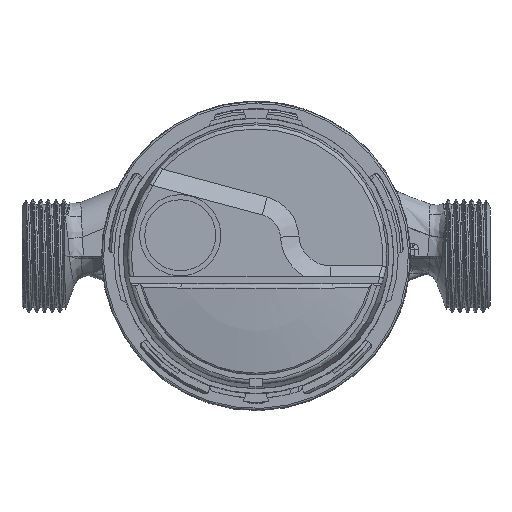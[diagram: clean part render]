
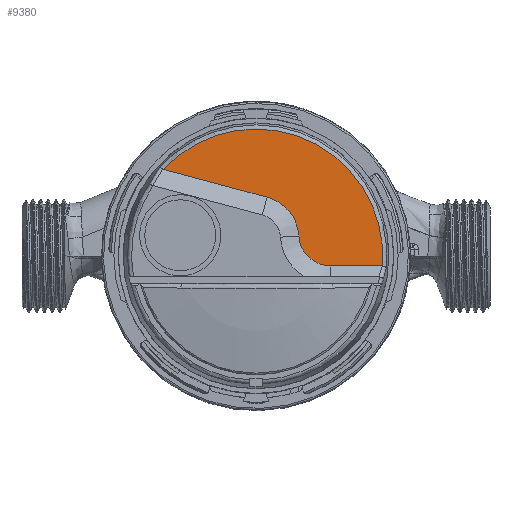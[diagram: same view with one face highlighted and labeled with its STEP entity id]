
A CAD part, top view. The second image highlights one B-rep face of the part: STEP entity #9380.
In plain terms, the highlighted planar face has unit normal (0, 0, 1) as drawn and (0, 1, 0) by its records, which use the part's own axes.
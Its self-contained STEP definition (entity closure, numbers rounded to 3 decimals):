
#308 = CARTESIAN_POINT ( 'NONE',  ( 0., 25., -4. ) ) ;
#2348 = CARTESIAN_POINT ( 'NONE',  ( -21.784, 25., -20.293 ) ) ;
#3407 = AXIS2_PLACEMENT_3D ( 'NONE', #308, #124444, #47061 ) ;
#5114 = EDGE_CURVE ( 'NONE', #6909, #118677, #70582, .T. ) ;
#6909 = VERTEX_POINT ( 'NONE', #7999 ) ;
#7999 = CARTESIAN_POINT ( 'NONE',  ( 17.566, 25., 2.4 ) ) ;
#9380 = ADVANCED_FACE ( 'NONE', ( #30285 ), #51310, .T. ) ;
#10182 = B_SPLINE_CURVE_WITH_KNOTS ( 'NONE', 3,
 ( #91334, #31911, #71514, #121975 ),
 .UNSPECIFIED., .F., .F.,
 ( 4, 4 ),
 ( 0., 0. ),
 .UNSPECIFIED. ) ;
#12880 = CARTESIAN_POINT ( 'NONE',  ( 17.566, 25., -5.1 ) ) ;
#13515 = DIRECTION ( 'NONE',  ( 0., 1., 0. ) ) ;
#15255 = EDGE_LOOP ( 'NONE', ( #68616, #66811, #76982, #102354, #64935, #87756 ) ) ;
#19917 = EDGE_CURVE ( 'NONE', #94900, #6909, #98541, .T. ) ;
#30285 = FACE_OUTER_BOUND ( 'NONE', #15255, .T. ) ;
#30359 = EDGE_CURVE ( 'NONE', #118469, #45896, #99273, .T. ) ;
#31167 = VECTOR ( 'NONE', #96817, 1000. ) ;
#31535 = DIRECTION ( 'NONE',  ( 1., 0., 0. ) ) ;
#31911 = CARTESIAN_POINT ( 'NONE',  ( 29.626, 25., 2.4 ) ) ;
#34255 = EDGE_CURVE ( 'NONE', #118677, #118469, #10182, .T. ) ;
#34836 = CARTESIAN_POINT ( 'NONE',  ( 0., 25., 0. ) ) ;
#44178 = AXIS2_PLACEMENT_3D ( 'NONE', #34836, #123631, #94230 ) ;
#45896 = VERTEX_POINT ( 'NONE', #2348 ) ;
#47061 = DIRECTION ( 'NONE',  ( 0., 0., 1. ) ) ;
#51038 = CARTESIAN_POINT ( 'NONE',  ( 2.614, 25., -13.756 ) ) ;
#51310 = PLANE ( 'NONE',  #103768 ) ;
#52867 = EDGE_CURVE ( 'NONE', #126106, #94900, #58602, .T. ) ;
#53825 = DIRECTION ( 'NONE',  ( 0., 1., 0. ) ) ;
#57538 = CARTESIAN_POINT ( 'NONE',  ( 10.08, 25., -4.631 ) ) ;
#58602 = CIRCLE ( 'NONE', #3407, 10.1 ) ;
#60183 = DIRECTION ( 'NONE',  ( 0., 0., 1. ) ) ;
#61583 = DIRECTION ( 'NONE',  ( 1., 0., 0. ) ) ;
#62168 = CARTESIAN_POINT ( 'NONE',  ( 29.674, 25., 2.405 ) ) ;
#64935 = ORIENTED_EDGE ( 'NONE', *, *, #52867, .T. ) ;
#65828 = AXIS2_PLACEMENT_3D ( 'NONE', #12880, #13515, #60183 ) ;
#66122 = LINE ( 'NONE', #75110, #31167 ) ;
#66811 = ORIENTED_EDGE ( 'NONE', *, *, #34255, .T. ) ;
#68616 = ORIENTED_EDGE ( 'NONE', *, *, #5114, .T. ) ;
#70582 = LINE ( 'NONE', #104205, #74203 ) ;
#71514 = CARTESIAN_POINT ( 'NONE',  ( 29.65, 25., 2.402 ) ) ;
#74203 = VECTOR ( 'NONE', #61583, 1000. ) ;
#75110 = CARTESIAN_POINT ( 'NONE',  ( -40., 25., -25.174 ) ) ;
#76982 = ORIENTED_EDGE ( 'NONE', *, *, #30359, .T. ) ;
#87756 = ORIENTED_EDGE ( 'NONE', *, *, #19917, .T. ) ;
#90942 = CARTESIAN_POINT ( 'NONE',  ( 17.566, 25., -5.1 ) ) ;
#91334 = CARTESIAN_POINT ( 'NONE',  ( 29.601, 25., 2.4 ) ) ;
#94230 = DIRECTION ( 'NONE',  ( 0., 0., 1. ) ) ;
#94900 = VERTEX_POINT ( 'NONE', #57538 ) ;
#96817 = DIRECTION ( 'NONE',  ( 0.966, 0., 0.259 ) ) ;
#98541 = CIRCLE ( 'NONE', #65828, 7.5 ) ;
#99273 = CIRCLE ( 'NONE', #44178, 29.772 ) ;
#102354 = ORIENTED_EDGE ( 'NONE', *, *, #108720, .T. ) ;
#103768 = AXIS2_PLACEMENT_3D ( 'NONE', #90942, #53825, #31535 ) ;
#104205 = CARTESIAN_POINT ( 'NONE',  ( 17.566, 25., 2.4 ) ) ;
#108720 = EDGE_CURVE ( 'NONE', #45896, #126106, #66122, .T. ) ;
#118469 = VERTEX_POINT ( 'NONE', #62168 ) ;
#118677 = VERTEX_POINT ( 'NONE', #123049 ) ;
#121975 = CARTESIAN_POINT ( 'NONE',  ( 29.674, 25., 2.405 ) ) ;
#123049 = CARTESIAN_POINT ( 'NONE',  ( 29.601, 25., 2.4 ) ) ;
#123631 = DIRECTION ( 'NONE',  ( 0., 1., 0. ) ) ;
#124444 = DIRECTION ( 'NONE',  ( 0., -1., 0. ) ) ;
#126106 = VERTEX_POINT ( 'NONE', #51038 ) ;
